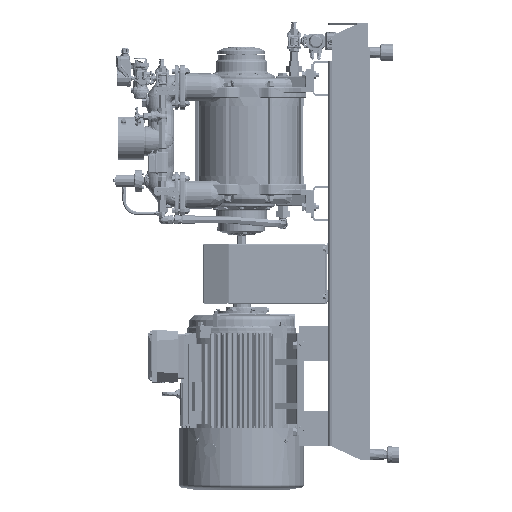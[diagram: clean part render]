
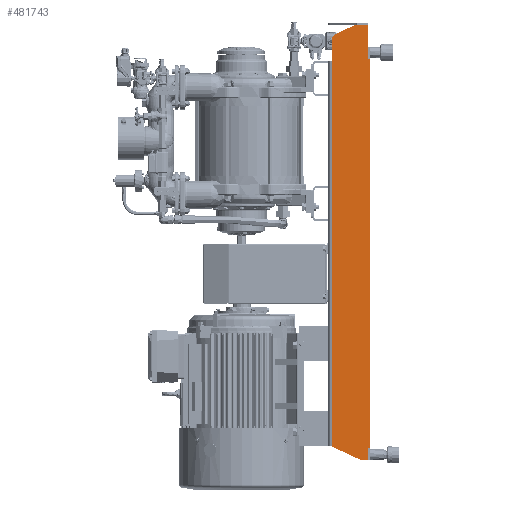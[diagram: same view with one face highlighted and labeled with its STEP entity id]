
A CAD part, left-side view. The second image highlights one B-rep face of the part: STEP entity #481743.
In plain terms, the highlighted planar face has unit normal (-1, 0, 0).
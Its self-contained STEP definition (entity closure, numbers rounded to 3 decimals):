
#30894=PLANE('',#513213);
#54532=FACE_OUTER_BOUND('',#82345,.T.);
#82345=EDGE_LOOP('',(#356190,#356191,#356192,#356193,#356194,#356195,#356196,
#356197,#356198,#356199,#356200,#356201));
#115027=LINE('',#882200,#151700);
#115643=LINE('',#884221,#152316);
#115644=LINE('',#884223,#152317);
#115645=LINE('',#884224,#152318);
#115646=LINE('',#884226,#152319);
#115647=LINE('',#884230,#152320);
#115648=LINE('',#884231,#152321);
#115649=LINE('',#884233,#152322);
#115650=LINE('',#884235,#152323);
#115651=LINE('',#884237,#152324);
#115652=LINE('',#884238,#152325);
#151700=VECTOR('',#580324,10.);
#152316=VECTOR('',#582084,10.);
#152317=VECTOR('',#582085,10.);
#152318=VECTOR('',#582086,10.);
#152319=VECTOR('',#582087,10.);
#152320=VECTOR('',#582090,10.);
#152321=VECTOR('',#582091,10.);
#152322=VECTOR('',#582092,10.);
#152323=VECTOR('',#582093,10.);
#152324=VECTOR('',#582094,10.);
#152325=VECTOR('',#582095,10.);
#180811=CIRCLE('',#513214,25.);
#207430=VERTEX_POINT('',#882197);
#207431=VERTEX_POINT('',#882199);
#207990=VERTEX_POINT('',#884209);
#207993=VERTEX_POINT('',#884219);
#207994=VERTEX_POINT('',#884220);
#207995=VERTEX_POINT('',#884222);
#207996=VERTEX_POINT('',#884225);
#207997=VERTEX_POINT('',#884227);
#207998=VERTEX_POINT('',#884229);
#207999=VERTEX_POINT('',#884232);
#208000=VERTEX_POINT('',#884234);
#208001=VERTEX_POINT('',#884236);
#260472=EDGE_CURVE('',#207430,#207431,#115027,.T.);
#261407=EDGE_CURVE('',#207993,#207994,#115643,.T.);
#261408=EDGE_CURVE('',#207993,#207995,#115644,.T.);
#261409=EDGE_CURVE('',#207431,#207995,#115645,.T.);
#261410=EDGE_CURVE('',#207996,#207430,#115646,.T.);
#261411=EDGE_CURVE('',#207997,#207996,#180811,.T.);
#261412=EDGE_CURVE('',#207998,#207997,#115647,.T.);
#261413=EDGE_CURVE('',#207998,#207990,#115648,.T.);
#261414=EDGE_CURVE('',#207999,#207990,#115649,.T.);
#261415=EDGE_CURVE('',#208000,#207999,#115650,.T.);
#261416=EDGE_CURVE('',#208000,#208001,#115651,.T.);
#261417=EDGE_CURVE('',#208001,#207994,#115652,.T.);
#356190=ORIENTED_EDGE('',*,*,#261407,.F.);
#356191=ORIENTED_EDGE('',*,*,#261408,.T.);
#356192=ORIENTED_EDGE('',*,*,#261409,.F.);
#356193=ORIENTED_EDGE('',*,*,#260472,.F.);
#356194=ORIENTED_EDGE('',*,*,#261410,.F.);
#356195=ORIENTED_EDGE('',*,*,#261411,.F.);
#356196=ORIENTED_EDGE('',*,*,#261412,.F.);
#356197=ORIENTED_EDGE('',*,*,#261413,.T.);
#356198=ORIENTED_EDGE('',*,*,#261414,.F.);
#356199=ORIENTED_EDGE('',*,*,#261415,.F.);
#356200=ORIENTED_EDGE('',*,*,#261416,.T.);
#356201=ORIENTED_EDGE('',*,*,#261417,.T.);
#481743=ADVANCED_FACE('',(#54532),#30894,.T.);
#513213=AXIS2_PLACEMENT_3D('',#884218,#582082,#582083);
#513214=AXIS2_PLACEMENT_3D('',#884228,#582088,#582089);
#580324=DIRECTION('',(0.,-1.,0.));
#582082=DIRECTION('center_axis',(-1.,0.,0.));
#582083=DIRECTION('ref_axis',(0.,0.,
-1.));
#582084=DIRECTION('',(0.,0.,-1.));
#582085=DIRECTION('',(0.,1.,0.));
#582086=DIRECTION('',(0.,0.,-1.));
#582087=DIRECTION('',(0.,-0.906,0.423));
#582088=DIRECTION('center_axis',(1.,0.,0.));
#582089=DIRECTION('ref_axis',(0.,0.843,0.537));
#582090=DIRECTION('',(0.,0.,1.));
#582091=DIRECTION('',(0.,0.,-1.));
#582092=DIRECTION('',(0.,0.906,0.423));
#582093=DIRECTION('',(0.,1.,0.));
#582094=DIRECTION('',(0.,0.,1.));
#582095=DIRECTION('',(0.,-1.,0.));
#882197=CARTESIAN_POINT('',(-254.,-3.804,736.766));
#882199=CARTESIAN_POINT('',(-254.,-49.,736.766));
#882200=CARTESIAN_POINT('',(-254.,-3.804,736.766));
#884209=CARTESIAN_POINT('',(-254.,83.,-771.734));
#884218=CARTESIAN_POINT('Origin',(-254.,348.586,-186.984));
#884219=CARTESIAN_POINT('',(-254.,-55.,612.766));
#884220=CARTESIAN_POINT('',(-254.,-55.,-777.734));
#884221=CARTESIAN_POINT('',(-254.,-55.,-980.734));
#884222=CARTESIAN_POINT('',(-254.,-49.,612.766));
#884223=CARTESIAN_POINT('',(-254.,146.793,612.766));
#884224=CARTESIAN_POINT('',(-254.,-49.,736.766));
#884225=CARTESIAN_POINT('',(-254.,68.565,703.02));
#884226=CARTESIAN_POINT('',(-254.,83.,696.289));
#884227=CARTESIAN_POINT('',(-254.,83.,680.362));
#884228=CARTESIAN_POINT('Origin',(-254.,58.,680.362));
#884229=CARTESIAN_POINT('',(-254.,83.,606.766));
#884230=CARTESIAN_POINT('',(-254.,83.,606.766));
#884231=CARTESIAN_POINT('',(-254.,83.,-186.984));
#884232=CARTESIAN_POINT('',(-254.,-24.225,-821.734));
#884233=CARTESIAN_POINT('',(-254.,-24.225,-821.734));
#884234=CARTESIAN_POINT('',(-254.,-49.,-821.734));
#884235=CARTESIAN_POINT('',(-254.,-55.,-821.734));
#884236=CARTESIAN_POINT('',(-254.,-49.,-777.734));
#884237=CARTESIAN_POINT('',(-254.,-49.,-528.859));
#884238=CARTESIAN_POINT('',(-254.,146.793,-777.734));
